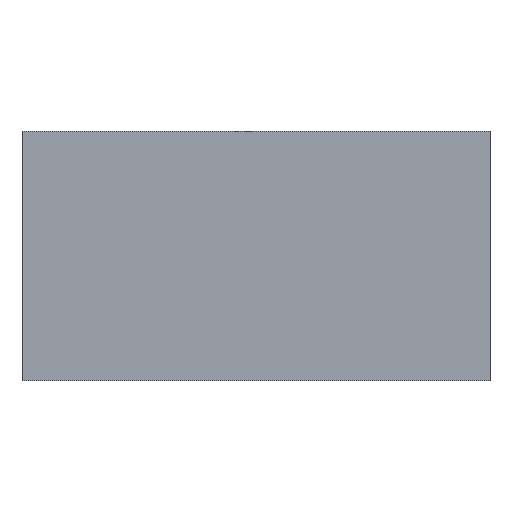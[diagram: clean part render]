
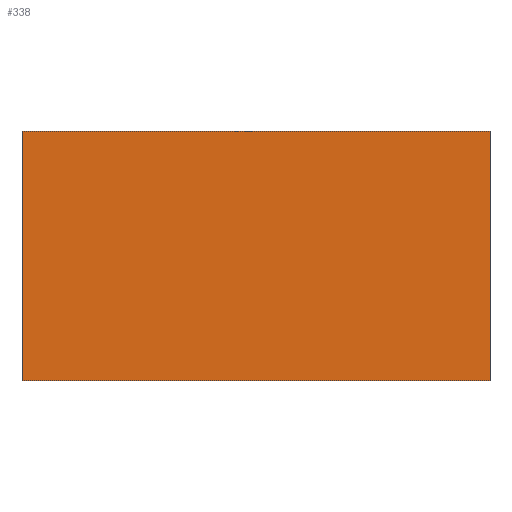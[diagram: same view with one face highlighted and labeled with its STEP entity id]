
A CAD part, top view. The second image highlights one B-rep face of the part: STEP entity #338.
In plain terms, the highlighted planar face has unit normal (0, 0, 1).
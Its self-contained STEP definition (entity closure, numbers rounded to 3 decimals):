
#24 = VERTEX_POINT('',#25);
#25 = CARTESIAN_POINT('',(-22.5,204.,95.));
#32 = PLANE('',#33);
#33 = AXIS2_PLACEMENT_3D('',#34,#35,#36);
#34 = CARTESIAN_POINT('',(-22.5,204.,92.));
#35 = DIRECTION('',(1.,0.,-0.));
#36 = DIRECTION('',(0.,0.,1.));
#44 = PLANE('',#45);
#45 = AXIS2_PLACEMENT_3D('',#46,#47,#48);
#46 = CARTESIAN_POINT('',(-22.5,204.,92.));
#47 = DIRECTION('',(-0.,1.,0.));
#48 = DIRECTION('',(0.,0.,1.));
#85 = VERTEX_POINT('',#86);
#86 = CARTESIAN_POINT('',(-22.5,252.,95.));
#100 = PLANE('',#101);
#101 = AXIS2_PLACEMENT_3D('',#102,#103,#104);
#102 = CARTESIAN_POINT('',(-22.5,252.,92.));
#103 = DIRECTION('',(-0.,1.,0.));
#104 = DIRECTION('',(0.,0.,1.));
#112 = EDGE_CURVE('',#24,#85,#113,.T.);
#113 = SURFACE_CURVE('',#114,(#118,#125),.PCURVE_S1.);
#114 = LINE('',#115,#116);
#115 = CARTESIAN_POINT('',(-22.5,204.,95.));
#116 = VECTOR('',#117,1.);
#117 = DIRECTION('',(-0.,1.,0.));
#118 = PCURVE('',#32,#119);
#119 = DEFINITIONAL_REPRESENTATION('',(#120),#124);
#120 = LINE('',#121,#122);
#121 = CARTESIAN_POINT('',(3.,0.));
#122 = VECTOR('',#123,1.);
#123 = DIRECTION('',(0.,-1.));
#124 = ( GEOMETRIC_REPRESENTATION_CONTEXT(2) 
PARAMETRIC_REPRESENTATION_CONTEXT() REPRESENTATION_CONTEXT('2D SPACE',''
  ) );
#125 = PCURVE('',#126,#131);
#126 = PLANE('',#127);
#127 = AXIS2_PLACEMENT_3D('',#128,#129,#130);
#128 = CARTESIAN_POINT('',(-22.5,204.,95.));
#129 = DIRECTION('',(0.,0.,1.));
#130 = DIRECTION('',(1.,0.,-0.));
#131 = DEFINITIONAL_REPRESENTATION('',(#132),#136);
#132 = LINE('',#133,#134);
#133 = CARTESIAN_POINT('',(0.,0.));
#134 = VECTOR('',#135,1.);
#135 = DIRECTION('',(0.,1.));
#136 = ( GEOMETRIC_REPRESENTATION_CONTEXT(2) 
PARAMETRIC_REPRESENTATION_CONTEXT() REPRESENTATION_CONTEXT('2D SPACE',''
  ) );
#144 = VERTEX_POINT('',#145);
#145 = CARTESIAN_POINT('',(67.5,204.,95.));
#152 = PLANE('',#153);
#153 = AXIS2_PLACEMENT_3D('',#154,#155,#156);
#154 = CARTESIAN_POINT('',(67.5,204.,92.));
#155 = DIRECTION('',(1.,0.,-0.));
#156 = DIRECTION('',(0.,0.,1.));
#195 = VERTEX_POINT('',#196);
#196 = CARTESIAN_POINT('',(67.5,252.,95.));
#217 = EDGE_CURVE('',#144,#195,#218,.T.);
#218 = SURFACE_CURVE('',#219,(#223,#230),.PCURVE_S1.);
#219 = LINE('',#220,#221);
#220 = CARTESIAN_POINT('',(67.5,204.,95.));
#221 = VECTOR('',#222,1.);
#222 = DIRECTION('',(-0.,1.,0.));
#223 = PCURVE('',#152,#224);
#224 = DEFINITIONAL_REPRESENTATION('',(#225),#229);
#225 = LINE('',#226,#227);
#226 = CARTESIAN_POINT('',(3.,0.));
#227 = VECTOR('',#228,1.);
#228 = DIRECTION('',(0.,-1.));
#229 = ( GEOMETRIC_REPRESENTATION_CONTEXT(2) 
PARAMETRIC_REPRESENTATION_CONTEXT() REPRESENTATION_CONTEXT('2D SPACE',''
  ) );
#230 = PCURVE('',#126,#231);
#231 = DEFINITIONAL_REPRESENTATION('',(#232),#236);
#232 = LINE('',#233,#234);
#233 = CARTESIAN_POINT('',(90.,0.));
#234 = VECTOR('',#235,1.);
#235 = DIRECTION('',(0.,1.));
#236 = ( GEOMETRIC_REPRESENTATION_CONTEXT(2) 
PARAMETRIC_REPRESENTATION_CONTEXT() REPRESENTATION_CONTEXT('2D SPACE',''
  ) );
#263 = EDGE_CURVE('',#24,#144,#264,.T.);
#264 = SURFACE_CURVE('',#265,(#269,#276),.PCURVE_S1.);
#265 = LINE('',#266,#267);
#266 = CARTESIAN_POINT('',(-22.5,204.,95.));
#267 = VECTOR('',#268,1.);
#268 = DIRECTION('',(1.,0.,-0.));
#269 = PCURVE('',#44,#270);
#270 = DEFINITIONAL_REPRESENTATION('',(#271),#275);
#271 = LINE('',#272,#273);
#272 = CARTESIAN_POINT('',(3.,0.));
#273 = VECTOR('',#274,1.);
#274 = DIRECTION('',(0.,1.));
#275 = ( GEOMETRIC_REPRESENTATION_CONTEXT(2) 
PARAMETRIC_REPRESENTATION_CONTEXT() REPRESENTATION_CONTEXT('2D SPACE',''
  ) );
#276 = PCURVE('',#126,#277);
#277 = DEFINITIONAL_REPRESENTATION('',(#278),#282);
#278 = LINE('',#279,#280);
#279 = CARTESIAN_POINT('',(0.,0.));
#280 = VECTOR('',#281,1.);
#281 = DIRECTION('',(1.,0.));
#282 = ( GEOMETRIC_REPRESENTATION_CONTEXT(2) 
PARAMETRIC_REPRESENTATION_CONTEXT() REPRESENTATION_CONTEXT('2D SPACE',''
  ) );
#310 = EDGE_CURVE('',#85,#195,#311,.T.);
#311 = SURFACE_CURVE('',#312,(#316,#323),.PCURVE_S1.);
#312 = LINE('',#313,#314);
#313 = CARTESIAN_POINT('',(-22.5,252.,95.));
#314 = VECTOR('',#315,1.);
#315 = DIRECTION('',(1.,0.,-0.));
#316 = PCURVE('',#100,#317);
#317 = DEFINITIONAL_REPRESENTATION('',(#318),#322);
#318 = LINE('',#319,#320);
#319 = CARTESIAN_POINT('',(3.,0.));
#320 = VECTOR('',#321,1.);
#321 = DIRECTION('',(0.,1.));
#322 = ( GEOMETRIC_REPRESENTATION_CONTEXT(2) 
PARAMETRIC_REPRESENTATION_CONTEXT() REPRESENTATION_CONTEXT('2D SPACE',''
  ) );
#323 = PCURVE('',#126,#324);
#324 = DEFINITIONAL_REPRESENTATION('',(#325),#329);
#325 = LINE('',#326,#327);
#326 = CARTESIAN_POINT('',(0.,48.));
#327 = VECTOR('',#328,1.);
#328 = DIRECTION('',(1.,0.));
#329 = ( GEOMETRIC_REPRESENTATION_CONTEXT(2) 
PARAMETRIC_REPRESENTATION_CONTEXT() REPRESENTATION_CONTEXT('2D SPACE',''
  ) );
#338 = ADVANCED_FACE('',(#339),#126,.T.);
#339 = FACE_BOUND('',#340,.T.);
#340 = EDGE_LOOP('',(#341,#342,#343,#344));
#341 = ORIENTED_EDGE('',*,*,#112,.F.);
#342 = ORIENTED_EDGE('',*,*,#263,.T.);
#343 = ORIENTED_EDGE('',*,*,#217,.T.);
#344 = ORIENTED_EDGE('',*,*,#310,.F.);
